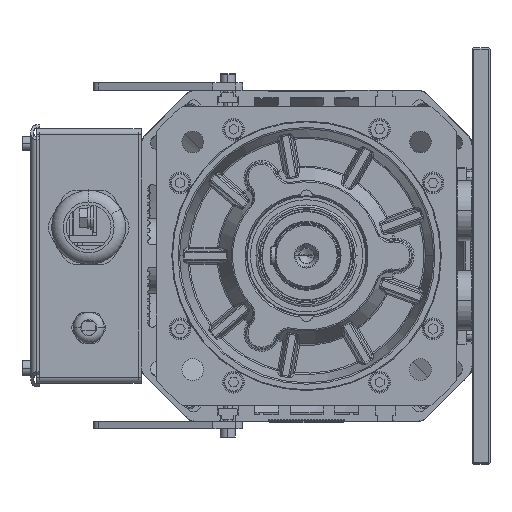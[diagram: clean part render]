
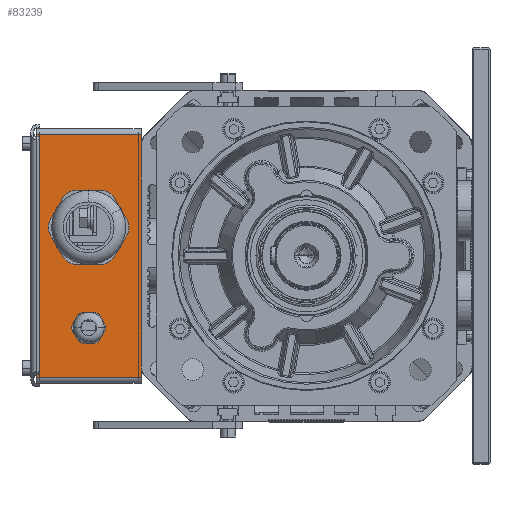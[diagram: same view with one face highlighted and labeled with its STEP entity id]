
A CAD part, left-side view. The second image highlights one B-rep face of the part: STEP entity #83239.
In plain terms, the highlighted planar face has unit normal (-1, 0, 0).
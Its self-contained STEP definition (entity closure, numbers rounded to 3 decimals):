
#81071=DIRECTION('',(0.,0.,1.));
#81072=VECTOR('',#81071,162.);
#81073=CARTESIAN_POINT('',(214.,110.5,-81.));
#81074=LINE('',#81073,#81072);
#81348=CARTESIAN_POINT('',(214.,145.5,-48.));
#81349=DIRECTION('',(-1.,0.,0.));
#81350=DIRECTION('',(0.,1.,0.));
#81351=AXIS2_PLACEMENT_3D('',#81348,#81349,#81350);
#81353=CARTESIAN_POINT('',(214.,145.5,-48.));
#81354=DIRECTION('',(-1.,0.,0.));
#81355=DIRECTION('',(0.,-1.,0.));
#81356=AXIS2_PLACEMENT_3D('',#81353,#81354,#81355);
#81358=CARTESIAN_POINT('',(214.,145.5,19.));
#81359=DIRECTION('',(-1.,0.,0.));
#81360=DIRECTION('',(0.,1.,0.));
#81361=AXIS2_PLACEMENT_3D('',#81358,#81359,#81360);
#81363=CARTESIAN_POINT('',(214.,145.5,19.));
#81364=DIRECTION('',(-1.,0.,0.));
#81365=DIRECTION('',(0.,-1.,0.));
#81366=AXIS2_PLACEMENT_3D('',#81363,#81364,#81365);
#81368=DIRECTION('',(0.,0.,1.));
#81369=VECTOR('',#81368,162.);
#81370=CARTESIAN_POINT('',(214.,180.5,-81.));
#81371=LINE('',#81370,#81369);
#82282=DIRECTION('',(0.,-1.,0.));
#82283=VECTOR('',#82282,70.);
#82284=CARTESIAN_POINT('',(214.,180.5,-81.));
#82285=LINE('',#82284,#82283);
#82302=DIRECTION('',(0.,1.,0.));
#82303=VECTOR('',#82302,70.);
#82304=CARTESIAN_POINT('',(214.,110.5,81.));
#82305=LINE('',#82304,#82303);
#82622=CARTESIAN_POINT('',(214.,155.5,-48.));
#82623=CARTESIAN_POINT('',(214.,135.5,-48.));
#82624=VERTEX_POINT('',#82622);
#82625=VERTEX_POINT('',#82623);
#82626=CARTESIAN_POINT('',(214.,170.5,19.));
#82627=CARTESIAN_POINT('',(214.,120.5,19.));
#82628=VERTEX_POINT('',#82626);
#82629=VERTEX_POINT('',#82627);
#82774=CARTESIAN_POINT('',(214.,110.5,-81.));
#82776=VERTEX_POINT('',#82774);
#82787=CARTESIAN_POINT('',(214.,110.5,81.));
#82789=VERTEX_POINT('',#82787);
#82822=CARTESIAN_POINT('',(214.,180.5,81.));
#82824=VERTEX_POINT('',#82822);
#82835=CARTESIAN_POINT('',(214.,180.5,-81.));
#82837=VERTEX_POINT('',#82835);
#83214=CARTESIAN_POINT('',(214.,110.5,-85.));
#83215=DIRECTION('',(-1.,0.,0.));
#83216=DIRECTION('',(0.,0.,1.));
#83217=AXIS2_PLACEMENT_3D('',#83214,#83215,#83216);
#83218=PLANE('',#83217);
#83220=ORIENTED_EDGE('',*,*,#83219,.F.);
#83221=ORIENTED_EDGE('',*,*,#83021,.F.);
#83223=ORIENTED_EDGE('',*,*,#83222,.F.);
#83224=ORIENTED_EDGE('',*,*,#83081,.T.);
#83225=EDGE_LOOP('',(#83220,#83221,#83223,#83224));
#83226=FACE_OUTER_BOUND('',#83225,.F.);
#83228=ORIENTED_EDGE('',*,*,#83227,.T.);
#83230=ORIENTED_EDGE('',*,*,#83229,.T.);
#83231=EDGE_LOOP('',(#83228,#83230));
#83232=FACE_BOUND('',#83231,.F.);
#83234=ORIENTED_EDGE('',*,*,#83233,.T.);
#83236=ORIENTED_EDGE('',*,*,#83235,.T.);
#83237=EDGE_LOOP('',(#83234,#83236));
#83238=FACE_BOUND('',#83237,.F.);
#83239=ADVANCED_FACE('',(#83226,#83232,#83238),#83218,.T.);
#81352=CIRCLE('',#81351,10.);
#81357=CIRCLE('',#81356,10.);
#81362=CIRCLE('',#81361,25.);
#81367=CIRCLE('',#81366,25.);
#83021=EDGE_CURVE('',#82776,#82789,#81074,.T.);
#83081=EDGE_CURVE('',#82837,#82824,#81371,.T.);
#83219=EDGE_CURVE('',#82789,#82824,#82305,.T.);
#83222=EDGE_CURVE('',#82837,#82776,#82285,.T.);
#83227=EDGE_CURVE('',#82628,#82629,#81362,.T.);
#83229=EDGE_CURVE('',#82629,#82628,#81367,.T.);
#83233=EDGE_CURVE('',#82624,#82625,#81352,.T.);
#83235=EDGE_CURVE('',#82625,#82624,#81357,.T.);
